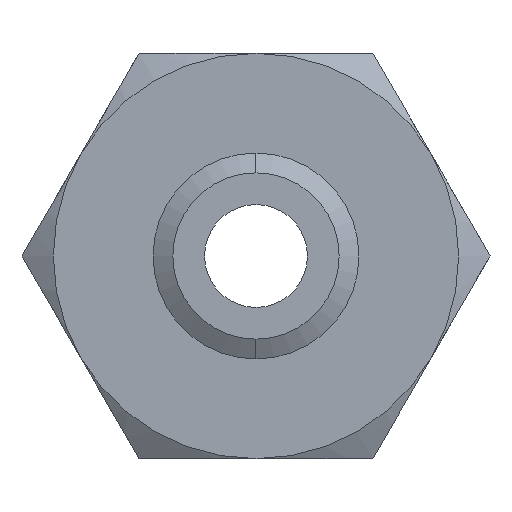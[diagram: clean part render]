
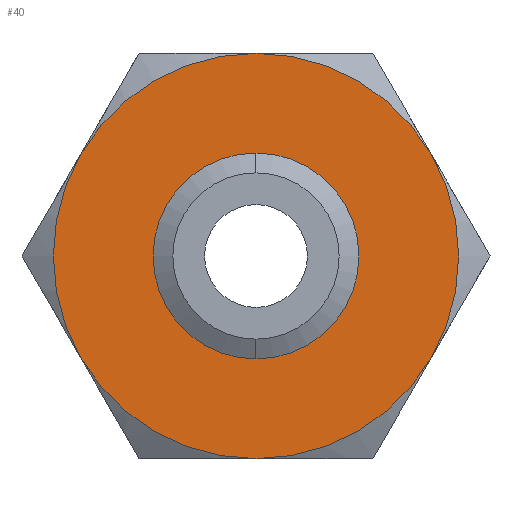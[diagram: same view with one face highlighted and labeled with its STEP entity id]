
A CAD part, front view. The second image highlights one B-rep face of the part: STEP entity #40.
In plain terms, the highlighted planar face has unit normal (0, -1, 0).
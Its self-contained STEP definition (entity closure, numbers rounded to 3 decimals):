
#1 = ORIENTED_EDGE ( 'NONE', *, *, #74, .F. ) ;
#2 = ORIENTED_EDGE ( 'NONE', *, *, #25, .F. ) ;
#4 = EDGE_LOOP ( 'NONE', ( #1, #2 ) ) ;
#8 = VERTEX_POINT ( 'NONE', #264 ) ;
#9 = ORIENTED_EDGE ( 'NONE', *, *, #10, .F. ) ;
#10 = EDGE_CURVE ( 'NONE', #34, #2243, #263, .T. ) ;
#11 = VERTEX_POINT ( 'NONE', #258 ) ;
#22 = EDGE_CURVE ( 'NONE', #2243, #1911, #304, .T. ) ;
#25 = EDGE_CURVE ( 'NONE', #69, #72, #299, .T. ) ;
#34 = VERTEX_POINT ( 'NONE', #334 ) ;
#35 = EDGE_CURVE ( 'NONE', #8, #11, #333, .T. ) ;
#36 = ORIENTED_EDGE ( 'NONE', *, *, #35, .F. ) ;
#37 = EDGE_LOOP ( 'NONE', ( #39, #36, #1924, #1903, #1912, #9 ) ) ;
#38 = EDGE_CURVE ( 'NONE', #11, #34, #328, .T. ) ;
#39 = ORIENTED_EDGE ( 'NONE', *, *, #38, .F. ) ;
#40 = ADVANCED_FACE ( 'NONE', ( #323, #322 ), #321, .F. ) ;
#69 = VERTEX_POINT ( 'NONE', #389 ) ;
#72 = VERTEX_POINT ( 'NONE', #378 ) ;
#74 = EDGE_CURVE ( 'NONE', #72, #69, #375, .T. ) ;
#258 = CARTESIAN_POINT ( 'NONE',  ( 0., 0., 37.5 ) ) ;
#259 = DIRECTION ( 'NONE',  ( 0., 0., 1. ) ) ;
#260 = DIRECTION ( 'NONE',  ( 0., 1., 0. ) ) ;
#261 = CARTESIAN_POINT ( 'NONE',  ( 0., 0., 0. ) ) ;
#262 = AXIS2_PLACEMENT_3D ( 'NONE', #261, #260, #259 ) ;
#263 = CIRCLE ( 'NONE', #262, 37.5 ) ;
#264 = CARTESIAN_POINT ( 'NONE',  ( -32.476, 0., 18.75 ) ) ;
#294 = DIRECTION ( 'NONE',  ( 0., 0., -1. ) ) ;
#296 = DIRECTION ( 'NONE',  ( 0., -1., 0. ) ) ;
#297 = CARTESIAN_POINT ( 'NONE',  ( 0., 0., 0. ) ) ;
#298 = AXIS2_PLACEMENT_3D ( 'NONE', #297, #296, #294 ) ;
#299 = CIRCLE ( 'NONE', #298, 15.387 ) ;
#300 = DIRECTION ( 'NONE',  ( 0., 0., 1. ) ) ;
#301 = DIRECTION ( 'NONE',  ( 0., 1., 0. ) ) ;
#302 = CARTESIAN_POINT ( 'NONE',  ( 0., 0., 0. ) ) ;
#303 = AXIS2_PLACEMENT_3D ( 'NONE', #302, #301, #300 ) ;
#304 = CIRCLE ( 'NONE', #303, 37.5 ) ;
#317 = DIRECTION ( 'NONE',  ( 0., 0., 1. ) ) ;
#318 = DIRECTION ( 'NONE',  ( 0., 1., 0. ) ) ;
#319 = CARTESIAN_POINT ( 'NONE',  ( 21.651, 0., -37.5 ) ) ;
#320 = AXIS2_PLACEMENT_3D ( 'NONE', #319, #318, #317 ) ;
#321 = PLANE ( 'NONE',  #320 ) ;
#322 = FACE_BOUND ( 'NONE', #4, .T. ) ;
#323 = FACE_OUTER_BOUND ( 'NONE', #37, .T. ) ;
#324 = DIRECTION ( 'NONE',  ( 0., 0., 1. ) ) ;
#325 = DIRECTION ( 'NONE',  ( 0., 1., 0. ) ) ;
#326 = CARTESIAN_POINT ( 'NONE',  ( 0., 0., 0. ) ) ;
#327 = AXIS2_PLACEMENT_3D ( 'NONE', #326, #325, #324 ) ;
#328 = CIRCLE ( 'NONE', #327, 37.5 ) ;
#329 = DIRECTION ( 'NONE',  ( 0., 0., 1. ) ) ;
#330 = DIRECTION ( 'NONE',  ( 0., 1., 0. ) ) ;
#331 = CARTESIAN_POINT ( 'NONE',  ( 0., 0., 0. ) ) ;
#332 = AXIS2_PLACEMENT_3D ( 'NONE', #331, #330, #329 ) ;
#333 = CIRCLE ( 'NONE', #332, 37.5 ) ;
#334 = CARTESIAN_POINT ( 'NONE',  ( 32.476, 0., 18.75 ) ) ;
#372 = DIRECTION ( 'NONE',  ( 0., -1., 0. ) ) ;
#373 = CARTESIAN_POINT ( 'NONE',  ( 0., 0., 0. ) ) ;
#374 = AXIS2_PLACEMENT_3D ( 'NONE', #373, #372, #437 ) ;
#375 = CIRCLE ( 'NONE', #374, 15.387 ) ;
#378 = CARTESIAN_POINT ( 'NONE',  ( 0., 0., -15.387 ) ) ;
#389 = CARTESIAN_POINT ( 'NONE',  ( 0., 0., 15.387 ) ) ;
#437 = DIRECTION ( 'NONE',  ( 0., 0., -1. ) ) ;
#911 = CARTESIAN_POINT ( 'NONE',  ( -32.476, 0., -18.75 ) ) ;
#954 = DIRECTION ( 'NONE',  ( 0., 0., 1. ) ) ;
#955 = DIRECTION ( 'NONE',  ( 0., 1., 0. ) ) ;
#956 = CARTESIAN_POINT ( 'NONE',  ( 0., 0., 0. ) ) ;
#957 = AXIS2_PLACEMENT_3D ( 'NONE', #956, #955, #954 ) ;
#958 = CIRCLE ( 'NONE', #957, 37.5 ) ;
#959 = CARTESIAN_POINT ( 'NONE',  ( 0., 0., -37.5 ) ) ;
#987 = DIRECTION ( 'NONE',  ( 0., 0., 1. ) ) ;
#988 = DIRECTION ( 'NONE',  ( 0., 1., 0. ) ) ;
#989 = CARTESIAN_POINT ( 'NONE',  ( 0., 0., 0. ) ) ;
#990 = AXIS2_PLACEMENT_3D ( 'NONE', #989, #988, #987 ) ;
#991 = CIRCLE ( 'NONE', #990, 37.5 ) ;
#1655 = CARTESIAN_POINT ( 'NONE',  ( 32.476, 0., -18.75 ) ) ;
#1901 = VERTEX_POINT ( 'NONE', #911 ) ;
#1903 = ORIENTED_EDGE ( 'NONE', *, *, #1913, .F. ) ;
#1911 = VERTEX_POINT ( 'NONE', #959 ) ;
#1912 = ORIENTED_EDGE ( 'NONE', *, *, #22, .F. ) ;
#1913 = EDGE_CURVE ( 'NONE', #1911, #1901, #958, .T. ) ;
#1924 = ORIENTED_EDGE ( 'NONE', *, *, #1928, .F. ) ;
#1928 = EDGE_CURVE ( 'NONE', #1901, #8, #991, .T. ) ;
#2243 = VERTEX_POINT ( 'NONE', #1655 ) ;
